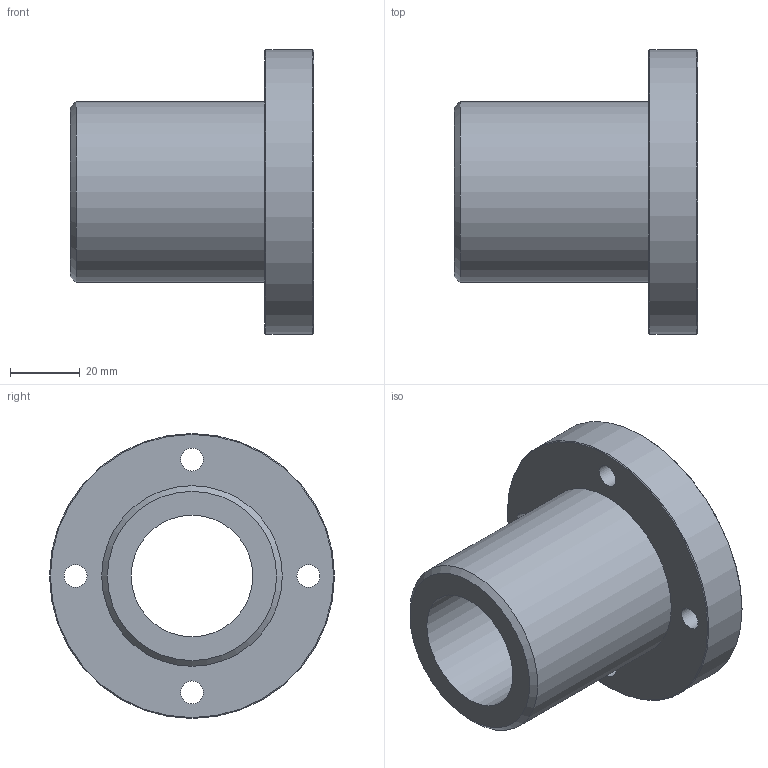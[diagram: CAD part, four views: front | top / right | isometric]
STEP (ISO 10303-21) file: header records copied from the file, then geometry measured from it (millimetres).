
FILE_DESCRIPTION(('STEP AP203'),'1');
FILE_NAME('//192.168.1.1/share/s-4 技術開発/s-4-4_CAD/s-4-4-3_見直し済み/PBC LINEAR修正済み/3D途中/SFPJ/SFPJR/SFPJR35.step','2022-03-24T06:29:19',(' '),(' '),'Spatial InterOp 3D',' ',' ');
FILE_SCHEMA(('CONFIG_CONTROL_DESIGN'));
Length unit declared in the file: millimetre
Products named in the file (1): 1
Bounding box: 70 x 82 x 82 mm (x, y, z)
Volume: 121880.3 mm3; surface area: 30076 mm2
Topology: 1 solids, 1 shells, 21 faces, 44 edges, 30 vertices
Faces by surface type: cylinder 11, plane 7, cone 3
Full cylindrical faces by diameter (mm): 6.6 x4, 11 x4, 35 x1, 52 x1, 82 x1
Entity records: 528 total; most frequent: DIRECTION 94, CARTESIAN_POINT 72, EDGE_LOOP 50, ORIENTED_EDGE 50, AXIS2_PLACEMENT_3D 47, FACE_OUTER_BOUND 32, EDGE_CURVE 25, VERTEX_POINT 25
